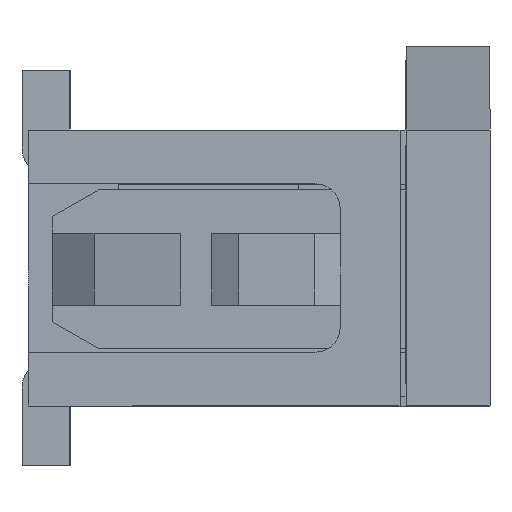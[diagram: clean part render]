
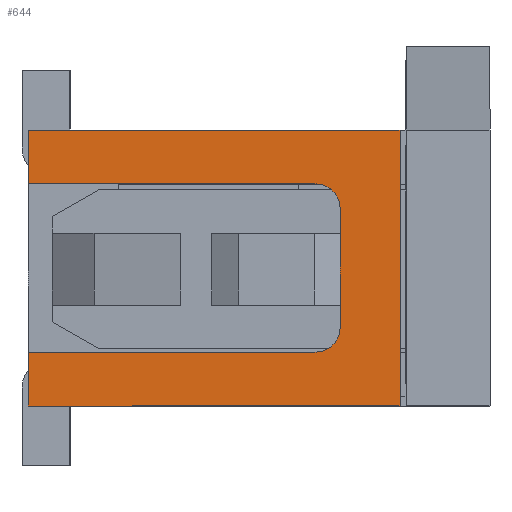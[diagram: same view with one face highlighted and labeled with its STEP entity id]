
A CAD part, left-side view. The second image highlights one B-rep face of the part: STEP entity #644.
In plain terms, the highlighted planar face has unit normal (-1, 0, 0).
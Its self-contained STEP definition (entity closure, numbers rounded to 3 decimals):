
#95=CIRCLE('',#8028,0.2);
#96=CIRCLE('',#8029,0.2);
#284=FACE_OUTER_BOUND('',#1321,.T.);
#644=ADVANCED_FACE('',(#284),#1001,.T.);
#1001=PLANE('',#8030);
#1321=EDGE_LOOP('',(#2416,#2417,#2418,#2419,#2420,#2421,#2422,#2423,#2424,
#2425));
#2416=ORIENTED_EDGE('',*,*,#5102,.T.);
#2417=ORIENTED_EDGE('',*,*,#5181,.T.);
#2418=ORIENTED_EDGE('',*,*,#5222,.T.);
#2419=ORIENTED_EDGE('',*,*,#5069,.T.);
#2420=ORIENTED_EDGE('',*,*,#5223,.T.);
#2421=ORIENTED_EDGE('',*,*,#5224,.T.);
#2422=ORIENTED_EDGE('',*,*,#5098,.T.);
#2423=ORIENTED_EDGE('',*,*,#4869,.T.);
#2424=ORIENTED_EDGE('',*,*,#5225,.T.);
#2425=ORIENTED_EDGE('',*,*,#5164,.F.);
#4086=VERTEX_POINT('',#10787);
#4087=VERTEX_POINT('',#10789);
#4208=VERTEX_POINT('',#11174);
#4209=VERTEX_POINT('',#11176);
#4228=VERTEX_POINT('',#11225);
#4231=VERTEX_POINT('',#11231);
#4232=VERTEX_POINT('',#11233);
#4284=VERTEX_POINT('',#11348);
#4297=VERTEX_POINT('',#11378);
#4322=VERTEX_POINT('',#11457);
#4869=EDGE_CURVE('',#4087,#4086,#6025,.T.);
#5069=EDGE_CURVE('',#4209,#4208,#6222,.T.);
#5098=EDGE_CURVE('',#4228,#4087,#6251,.T.);
#5102=EDGE_CURVE('',#4232,#4231,#6255,.T.);
#5164=EDGE_CURVE('',#4232,#4284,#6317,.T.);
#5181=EDGE_CURVE('',#4231,#4297,#6331,.T.);
#5222=EDGE_CURVE('',#4297,#4209,#95,.T.);
#5223=EDGE_CURVE('',#4208,#4322,#96,.T.);
#5224=EDGE_CURVE('',#4322,#4228,#6370,.T.);
#5225=EDGE_CURVE('',#4086,#4284,#6371,.T.);
#6025=LINE('',#10788,#7078);
#6222=LINE('',#11175,#7275);
#6251=LINE('',#11224,#7304);
#6255=LINE('',#11232,#7308);
#6317=LINE('',#11347,#7370);
#6331=LINE('',#11379,#7384);
#6370=LINE('',#11458,#7423);
#6371=LINE('',#11459,#7424);
#7078=VECTOR('',#8636,1.);
#7275=VECTOR('',#8969,1.);
#7304=VECTOR('',#9000,1.);
#7308=VECTOR('',#9004,1.);
#7370=VECTOR('',#9068,1.);
#7384=VECTOR('',#9090,1.);
#7423=VECTOR('',#9159,1.);
#7424=VECTOR('',#9160,1.);
#8028=AXIS2_PLACEMENT_3D('',#11455,#9155,#9156);
#8029=AXIS2_PLACEMENT_3D('',#11456,#9157,#9158);
#8030=AXIS2_PLACEMENT_3D('',#11460,#9161,#9162);
#8636=DIRECTION('',(0.,-1.,0.));
#8969=DIRECTION('',(0.,0.,-1.));
#9000=DIRECTION('',(0.,0.,-1.));
#9004=DIRECTION('',(0.,0.,-1.));
#9068=DIRECTION('',(0.,-1.,0.));
#9090=DIRECTION('',(0.,-1.,0.));
#9155=DIRECTION('',(1.,0.,0.));
#9156=DIRECTION('',(0.,1.,0.));
#9157=DIRECTION('',(1.,0.,0.));
#9158=DIRECTION('',(0.,1.,0.));
#9159=DIRECTION('',(0.,1.,0.));
#9160=DIRECTION('',(0.,0.,1.));
#9161=DIRECTION('',(-1.,0.,0.));
#9162=DIRECTION('',(0.,0.,1.));
#10787=CARTESIAN_POINT('',(-5.7,0.05,0.));
#10788=CARTESIAN_POINT('',(-5.7,3.15,0.));
#10789=CARTESIAN_POINT('',(-5.7,3.15,0.));
#11174=CARTESIAN_POINT('',(-5.7,0.55,0.65));
#11175=CARTESIAN_POINT('',(-5.7,0.55,1.65));
#11176=CARTESIAN_POINT('',(-5.7,0.55,1.65));
#11224=CARTESIAN_POINT('',(-5.7,3.15,2.3));
#11225=CARTESIAN_POINT('',(-5.7,3.15,0.45));
#11231=CARTESIAN_POINT('',(-5.7,3.15,1.85));
#11232=CARTESIAN_POINT('',(-5.7,3.15,2.3));
#11233=CARTESIAN_POINT('',(-5.7,3.15,2.3));
#11347=CARTESIAN_POINT('',(-5.7,3.15,2.3));
#11348=CARTESIAN_POINT('',(-5.7,0.05,2.3));
#11378=CARTESIAN_POINT('',(-5.7,0.75,1.85));
#11379=CARTESIAN_POINT('',(-5.7,3.15,1.85));
#11455=CARTESIAN_POINT('',(-5.7,0.75,1.65));
#11456=CARTESIAN_POINT('',(-5.7,0.75,0.65));
#11457=CARTESIAN_POINT('',(-5.7,0.75,0.45));
#11458=CARTESIAN_POINT('',(-5.7,0.75,0.45));
#11459=CARTESIAN_POINT('',(-5.7,0.05,0.));
#11460=CARTESIAN_POINT('',(-5.7,3.15,2.3));
